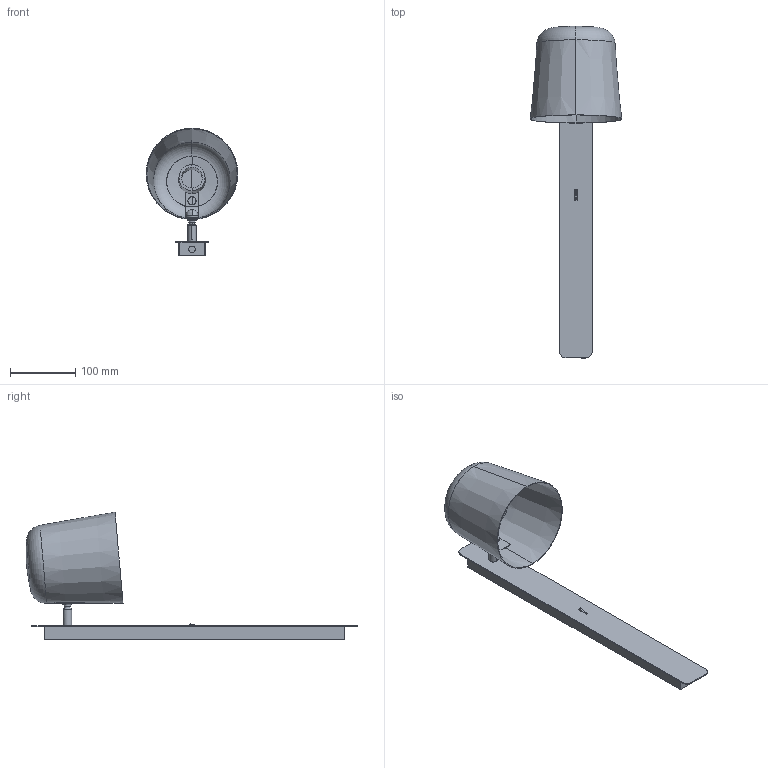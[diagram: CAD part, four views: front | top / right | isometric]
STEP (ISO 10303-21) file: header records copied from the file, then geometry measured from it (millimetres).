
FILE_DESCRIPTION(/* description */ (''),/* implementation_level */ '2;1');
FILE_NAME(/* name */ 'C:\Users\Franco Sartori E\Documents\FARO\DUPLICADO\Modelos\01_Digitalizados\2021\0_TILA\03_Publicación\62360.stp',/* time_stamp */ '2020-10-16T08:42:27+02:00',/* author */ ('Franco Sartori E'),/* organization */ (''),/* preprocessor_version */ 'ST-DEVELOPER v18.1',/* originating_system */ 'AutoCAD Mechanical',/* authorisation */ '');
FILE_SCHEMA (('AUTOMOTIVE_DESIGN { 1 0 10303 214 3 1 1 }'));
Length unit declared in the file: millimetre
Products named in the file (2): Product; 62360_62361_TILA - TILA-462307-Export
Assembly tree (1 placements, depth 2):
  Product
    62360_62361_TILA - TILA-462307-Export
Bounding box: 140.38 x 508.29 x 195.55 mm (x, y, z)
Volume: 197104.2 mm3; surface area: 287150.3 mm2
Topology: 9 solids, 9 shells, 148 faces, 376 edges, 231 vertices
Faces by surface type: plane 85, cylinder 37, cone 10, torus 8, bspline 8
Entity records: 5009 total; most frequent: CARTESIAN_POINT 1431, ORIENTED_EDGE 734, DIRECTION 724, EDGE_CURVE 367, AXIS2_PLACEMENT_3D 242, LINE 240, VECTOR 240, VERTEX_POINT 225
